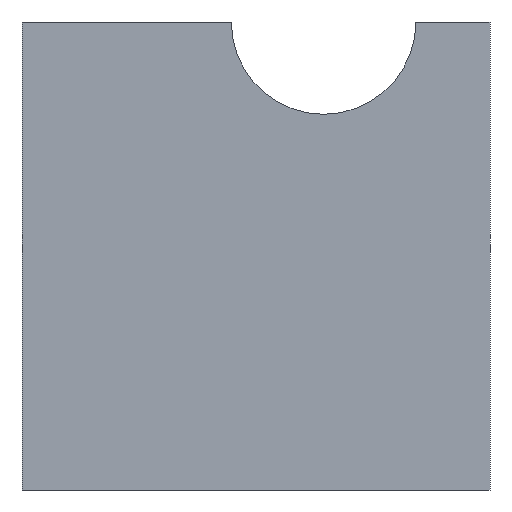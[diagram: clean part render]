
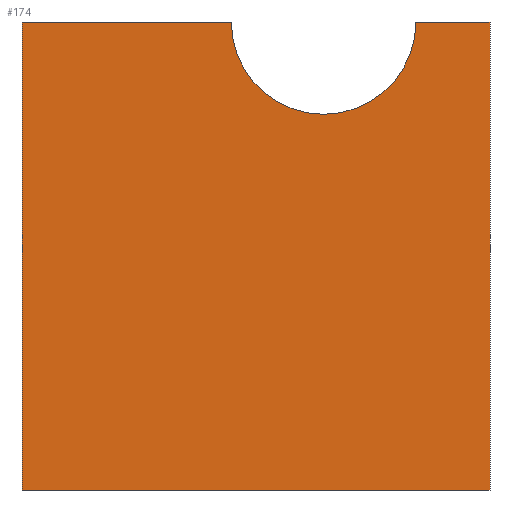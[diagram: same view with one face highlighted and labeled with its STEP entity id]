
A CAD part, front view. The second image highlights one B-rep face of the part: STEP entity #174.
In plain terms, the highlighted planar face has unit normal (0, -1, 0).
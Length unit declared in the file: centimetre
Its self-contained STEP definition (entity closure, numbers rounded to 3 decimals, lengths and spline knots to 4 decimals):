
#2 = DIRECTION ( 'NONE',  ( 0., 1., 0. ) ) ;
#3 = ORIENTED_EDGE ( 'NONE', *, *, #11, .T. ) ;
#11 = EDGE_CURVE ( 'NONE', #70, #401, #140, .T. ) ;
#15 = DIRECTION ( 'NONE',  ( 0., 0., -1. ) ) ;
#41 = VERTEX_POINT ( 'NONE', #417 ) ;
#46 = PLANE ( 'NONE',  #398 ) ;
#66 = VECTOR ( 'NONE', #282, 100. ) ;
#70 = VERTEX_POINT ( 'NONE', #136 ) ;
#74 = ORIENTED_EDGE ( 'NONE', *, *, #471, .F. ) ;
#81 = VERTEX_POINT ( 'NONE', #255 ) ;
#91 = CARTESIAN_POINT ( 'NONE',  ( 1000., 0., 1000. ) ) ;
#101 = CIRCLE ( 'NONE', #291, 197.1712 ) ;
#125 = CARTESIAN_POINT ( 'NONE',  ( 1000., 0., 1000. ) ) ;
#128 = ORIENTED_EDGE ( 'NONE', *, *, #150, .F. ) ;
#131 = EDGE_CURVE ( 'NONE', #41, #81, #101, .T. ) ;
#133 = LINE ( 'NONE', #137, #482 ) ;
#136 = CARTESIAN_POINT ( 'NONE',  ( 0., 0., 1000. ) ) ;
#137 = CARTESIAN_POINT ( 'NONE',  ( 0., 0., 1000. ) ) ;
#140 = LINE ( 'NONE', #458, #229 ) ;
#150 = EDGE_CURVE ( 'NONE', #202, #355, #289, .T. ) ;
#174 = ADVANCED_FACE ( 'NONE', ( #407 ), #46, .F. ) ;
#177 = DIRECTION ( 'NONE',  ( 0., 0., 1. ) ) ;
#202 = VERTEX_POINT ( 'NONE', #91 ) ;
#204 = ORIENTED_EDGE ( 'NONE', *, *, #479, .F. ) ;
#213 = CARTESIAN_POINT ( 'NONE',  ( 0., 0., 1000. ) ) ;
#217 = DIRECTION ( 'NONE',  ( 1., 0., 0. ) ) ;
#229 = VECTOR ( 'NONE', #15, 100. ) ;
#253 = CARTESIAN_POINT ( 'NONE',  ( 644.482, 0., 1000. ) ) ;
#255 = CARTESIAN_POINT ( 'NONE',  ( 447.3108, 0., 1000. ) ) ;
#256 = VECTOR ( 'NONE', #302, 100. ) ;
#260 = CARTESIAN_POINT ( 'NONE',  ( 1000., 0., 0. ) ) ;
#265 = CARTESIAN_POINT ( 'NONE',  ( 0., 0., 0. ) ) ;
#282 = DIRECTION ( 'NONE',  ( 0., 0., -1. ) ) ;
#289 = LINE ( 'NONE', #125, #66 ) ;
#291 = AXIS2_PLACEMENT_3D ( 'NONE', #253, #2, #444 ) ;
#302 = DIRECTION ( 'NONE',  ( 1., 0., 0. ) ) ;
#306 = EDGE_LOOP ( 'NONE', ( #204, #462, #74, #3, #367, #128 ) ) ;
#336 = LINE ( 'NONE', #485, #394 ) ;
#342 = CARTESIAN_POINT ( 'NONE',  ( 0., 0., 0. ) ) ;
#355 = VERTEX_POINT ( 'NONE', #260 ) ;
#367 = ORIENTED_EDGE ( 'NONE', *, *, #452, .T. ) ;
#381 = LINE ( 'NONE', #342, #256 ) ;
#394 = VECTOR ( 'NONE', #460, 100. ) ;
#398 = AXIS2_PLACEMENT_3D ( 'NONE', #213, #449, #177 ) ;
#401 = VERTEX_POINT ( 'NONE', #265 ) ;
#407 = FACE_OUTER_BOUND ( 'NONE', #306, .T. ) ;
#417 = CARTESIAN_POINT ( 'NONE',  ( 841.6532, 0., 1000. ) ) ;
#444 = DIRECTION ( 'NONE',  ( 0., 0., 1. ) ) ;
#449 = DIRECTION ( 'NONE',  ( 0., 1., 0. ) ) ;
#452 = EDGE_CURVE ( 'NONE', #401, #355, #381, .T. ) ;
#458 = CARTESIAN_POINT ( 'NONE',  ( 0., 0., 1000. ) ) ;
#460 = DIRECTION ( 'NONE',  ( 1., 0., 0. ) ) ;
#462 = ORIENTED_EDGE ( 'NONE', *, *, #131, .T. ) ;
#471 = EDGE_CURVE ( 'NONE', #70, #81, #336, .T. ) ;
#479 = EDGE_CURVE ( 'NONE', #41, #202, #133, .T. ) ;
#482 = VECTOR ( 'NONE', #217, 100. ) ;
#485 = CARTESIAN_POINT ( 'NONE',  ( 0., 0., 1000. ) ) ;
